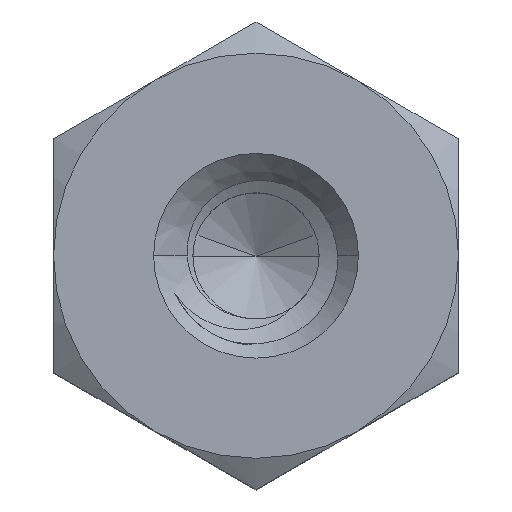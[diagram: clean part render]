
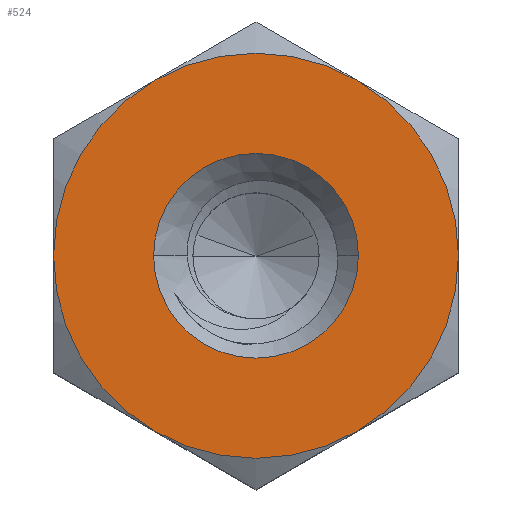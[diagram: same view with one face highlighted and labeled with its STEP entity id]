
A CAD part, top view. The second image highlights one B-rep face of the part: STEP entity #524.
In plain terms, the highlighted planar face has unit normal (0, 0, 1).
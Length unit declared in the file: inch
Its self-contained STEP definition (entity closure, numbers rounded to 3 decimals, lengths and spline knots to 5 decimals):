
#29 = DIRECTION ( 'NONE',  ( 0., 0., -1. ) ) ;
#52 = VERTEX_POINT ( 'NONE', #1274 ) ;
#163 = VERTEX_POINT ( 'NONE', #505 ) ;
#176 = AXIS2_PLACEMENT_3D ( 'NONE', #1975, #2010, #831 ) ;
#178 = AXIS2_PLACEMENT_3D ( 'NONE', #1669, #403, #227 ) ;
#213 = ORIENTED_EDGE ( 'NONE', *, *, #368, .F. ) ;
#224 = CARTESIAN_POINT ( 'NONE',  ( 0., 0., 0.17188 ) ) ;
#227 = DIRECTION ( 'NONE',  ( -1., 0., 0. ) ) ;
#249 = VERTEX_POINT ( 'NONE', #904 ) ;
#253 = ORIENTED_EDGE ( 'NONE', *, *, #1889, .F. ) ;
#254 = AXIS2_PLACEMENT_3D ( 'NONE', #599, #1252, #1707 ) ;
#269 = VERTEX_POINT ( 'NONE', #1416 ) ;
#316 = CIRCLE ( 'NONE', #1184, 0.15625 ) ;
#368 = EDGE_CURVE ( 'NONE', #2048, #734, #1854, .T. ) ;
#376 = ORIENTED_EDGE ( 'NONE', *, *, #1132, .F. ) ;
#403 = DIRECTION ( 'NONE',  ( 0., 0., -1. ) ) ;
#445 = AXIS2_PLACEMENT_3D ( 'NONE', #957, #1438, #1273 ) ;
#462 = ORIENTED_EDGE ( 'NONE', *, *, #715, .F. ) ;
#464 = CIRCLE ( 'NONE', #1263, 0.079 ) ;
#493 = DIRECTION ( 'NONE',  ( 0., 0., -1. ) ) ;
#505 = CARTESIAN_POINT ( 'NONE',  ( -0.079, 0., 0.17188 ) ) ;
#524 = ADVANCED_FACE ( 'NONE', ( #562, #1168 ), #1850, .F. ) ;
#537 = DIRECTION ( 'NONE',  ( -1., 0., 0. ) ) ;
#562 = FACE_BOUND ( 'NONE', #1729, .T. ) ;
#566 = CARTESIAN_POINT ( 'NONE',  ( -0.07812, 0.13532, 0.17188 ) ) ;
#599 = CARTESIAN_POINT ( 'NONE',  ( 0., 0., 0.17188 ) ) ;
#683 = CARTESIAN_POINT ( 'NONE',  ( 0., 0., 0.17188 ) ) ;
#710 = AXIS2_PLACEMENT_3D ( 'NONE', #1613, #493, #795 ) ;
#715 = EDGE_CURVE ( 'NONE', #734, #1289, #316, .T. ) ;
#723 = VERTEX_POINT ( 'NONE', #1828 ) ;
#734 = VERTEX_POINT ( 'NONE', #566 ) ;
#756 = EDGE_LOOP ( 'NONE', ( #213, #2058, #376, #1495, #1587, #462 ) ) ;
#795 = DIRECTION ( 'NONE',  ( -1., 0., 0. ) ) ;
#831 = DIRECTION ( 'NONE',  ( -1., 0., 0. ) ) ;
#904 = CARTESIAN_POINT ( 'NONE',  ( 0.07813, -0.13532, 0.17188 ) ) ;
#905 = ORIENTED_EDGE ( 'NONE', *, *, #1288, .F. ) ;
#957 = CARTESIAN_POINT ( 'NONE',  ( 0., 0., 0.17188 ) ) ;
#976 = CIRCLE ( 'NONE', #176, 0.15625 ) ;
#1126 = CARTESIAN_POINT ( 'NONE',  ( 0.07813, 0.13532, 0.17188 ) ) ;
#1132 = EDGE_CURVE ( 'NONE', #249, #269, #1836, .T. ) ;
#1168 = FACE_OUTER_BOUND ( 'NONE', #756, .T. ) ;
#1184 = AXIS2_PLACEMENT_3D ( 'NONE', #1538, #1334, #537 ) ;
#1185 = AXIS2_PLACEMENT_3D ( 'NONE', #1556, #1533, #1224 ) ;
#1203 = EDGE_CURVE ( 'NONE', #269, #2048, #1291, .T. ) ;
#1224 = DIRECTION ( 'NONE',  ( -1., 0., 0. ) ) ;
#1252 = DIRECTION ( 'NONE',  ( 0., 0., 1. ) ) ;
#1263 = AXIS2_PLACEMENT_3D ( 'NONE', #224, #1505, #1673 ) ;
#1273 = DIRECTION ( 'NONE',  ( 1., 0., 0. ) ) ;
#1274 = CARTESIAN_POINT ( 'NONE',  ( 0.15625, 0., 0.17188 ) ) ;
#1288 = EDGE_CURVE ( 'NONE', #723, #163, #1685, .T. ) ;
#1289 = VERTEX_POINT ( 'NONE', #1126 ) ;
#1291 = CIRCLE ( 'NONE', #710, 0.15625 ) ;
#1324 = DIRECTION ( 'NONE',  ( -1., 0., 0. ) ) ;
#1334 = DIRECTION ( 'NONE',  ( 0., 0., -1. ) ) ;
#1416 = CARTESIAN_POINT ( 'NONE',  ( -0.07812, -0.13532, 0.17188 ) ) ;
#1422 = CARTESIAN_POINT ( 'NONE',  ( -0.15625, 0., 0.17188 ) ) ;
#1438 = DIRECTION ( 'NONE',  ( 0., 0., 1. ) ) ;
#1482 = EDGE_CURVE ( 'NONE', #52, #249, #976, .T. ) ;
#1495 = ORIENTED_EDGE ( 'NONE', *, *, #1482, .F. ) ;
#1505 = DIRECTION ( 'NONE',  ( 0., 0., 1. ) ) ;
#1533 = DIRECTION ( 'NONE',  ( 0., 0., -1. ) ) ;
#1536 = EDGE_CURVE ( 'NONE', #52, #1289, #1811, .T. ) ;
#1538 = CARTESIAN_POINT ( 'NONE',  ( 0., 0., 0.17188 ) ) ;
#1556 = CARTESIAN_POINT ( 'NONE',  ( 0., 0., 0.17188 ) ) ;
#1587 = ORIENTED_EDGE ( 'NONE', *, *, #1536, .T. ) ;
#1613 = CARTESIAN_POINT ( 'NONE',  ( 0., 0., 0.17188 ) ) ;
#1669 = CARTESIAN_POINT ( 'NONE',  ( 0.3125, 0., 0.17188 ) ) ;
#1673 = DIRECTION ( 'NONE',  ( 1., 0., 0. ) ) ;
#1681 = AXIS2_PLACEMENT_3D ( 'NONE', #683, #29, #1324 ) ;
#1685 = CIRCLE ( 'NONE', #445, 0.079 ) ;
#1707 = DIRECTION ( 'NONE',  ( 1., 0., 0. ) ) ;
#1729 = EDGE_LOOP ( 'NONE', ( #905, #253 ) ) ;
#1811 = CIRCLE ( 'NONE', #254, 0.15625 ) ;
#1828 = CARTESIAN_POINT ( 'NONE',  ( 0.079, 0., 0.17188 ) ) ;
#1836 = CIRCLE ( 'NONE', #1185, 0.15625 ) ;
#1850 = PLANE ( 'NONE',  #178 ) ;
#1854 = CIRCLE ( 'NONE', #1681, 0.15625 ) ;
#1889 = EDGE_CURVE ( 'NONE', #163, #723, #464, .T. ) ;
#1975 = CARTESIAN_POINT ( 'NONE',  ( 0., 0., 0.17188 ) ) ;
#2010 = DIRECTION ( 'NONE',  ( 0., 0., -1. ) ) ;
#2048 = VERTEX_POINT ( 'NONE', #1422 ) ;
#2058 = ORIENTED_EDGE ( 'NONE', *, *, #1203, .F. ) ;
